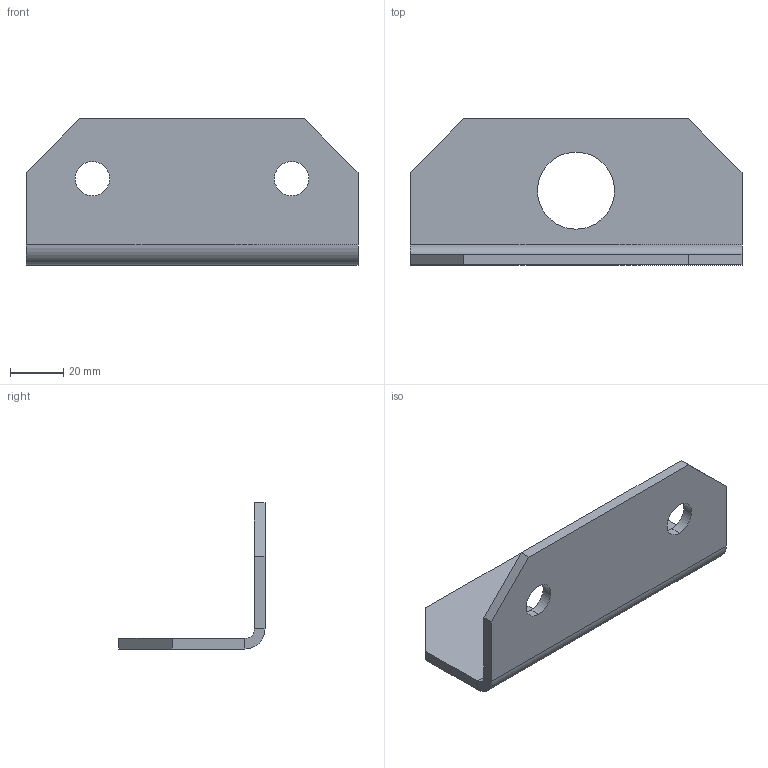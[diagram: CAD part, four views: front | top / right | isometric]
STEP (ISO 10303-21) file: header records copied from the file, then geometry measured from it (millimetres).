
FILE_DESCRIPTION (( 'STEP AP203' ), '1' );
FILE_NAME ('LL 12 Êðîíøòåéí äëÿ òðàíñïîðòèðîâêè.STEP', '2013-01-08T16:01:40', ( '' ), ( '' ), 'SwSTEP 2.0', 'SolidWorks 2012', '' );
FILE_SCHEMA (( 'CONFIG_CONTROL_DESIGN' ));
Length unit declared in the file: millimetre
Products named in the file (1): LL 12 Êðîíøòåéí äëÿ òðàíñïîðòèðîâêè
Bounding box: 125 x 55 x 55 mm (x, y, z)
Volume: 44894.3 mm3; surface area: 24779.6 mm2
Topology: 1 solids, 1 shells, 24 faces, 58 edges, 36 vertices
Faces by surface type: plane 16, cylinder 8
Entity records: 783 total; most frequent: DIRECTION 124, CARTESIAN_POINT 119, ORIENTED_EDGE 116, EDGE_CURVE 58, VECTOR 42, LINE 42, AXIS2_PLACEMENT_3D 41, VERTEX_POINT 36
